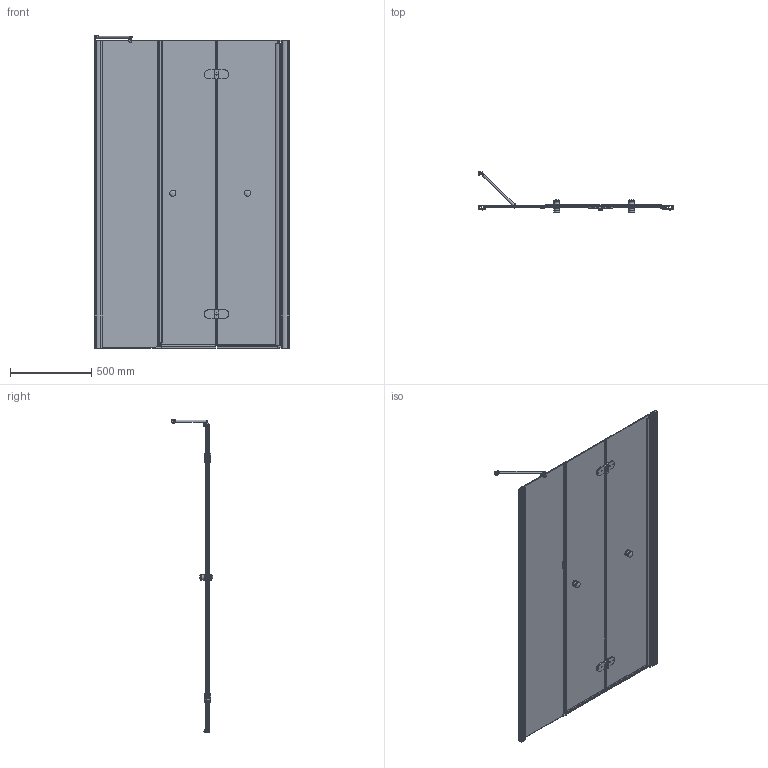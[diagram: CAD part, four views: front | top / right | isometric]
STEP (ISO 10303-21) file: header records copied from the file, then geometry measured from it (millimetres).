
FILE_DESCRIPTION(/* description */ ('Стенка задняя'),/* implementation_level */ '2;1');
FILE_NAME(/* name */ 'C:\5\stp\LUX DOOR GK-103C\LUX DOOR GK-103C правая модель\LUX DOOR GK-103C ПРАВАЯ-3D (для рендера).stp',/* time_stamp */ '2019-08-09T13:03:18+03:00',/* author */ ('ChechurovS'),/* organization */ (''),/* preprocessor_version */ 'ST-DEVELOPER v15.2',/* originating_system */ 'Autodesk Inventor 2014',/* authorisation */ '');
FILE_SCHEMA (('CONFIG_CONTROL_DESIGN'));
Length unit declared in the file: millimetre
Products named in the file (53): Стекло.03 (R-0); Стекло.03 (0); Стекло.02 (P) LX; CH25-0 R P1; CH25-0 P2; CH25-0 P3; CH25-0 P4; CH25-0 P5; CH25-0 P7; CH25-0 R; 07-001; 07-002; 07-003; 07-004; 07; M90-6.01; Магнит 90_1; М90-6; UP605-6; 622; RELAX P1; RELAX P2; RELAX P3; RELAX P4; RELAX P5; RELAX P6; REL25 P1; REL25 P2; REL25 P4; RELAX; 623; 624; UP623; UP602_2; UP602; STB-12-3-001; STB-3 P2; STB-3 P3; STB-3 P6; STB-3 P7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
Bounding box: 1200 x 254.45 x 1936.35 mm (x, y, z)
Volume: 14787940 mm3; surface area: 7649839.1 mm2
Topology: 102 solids, 102 shells, 2095 faces, 5481 edges, 3619 vertices
Faces by surface type: plane 1179, cylinder 756, cone 105, sphere 23, bspline 20, torus 12
Full cylindrical faces by diameter (mm): 3 x1, 4.134 x7, 4.917 x5, 5 x9, 6 x13, 6.647 x9, 7 x4, 7.8 x3, 8 x17, 8.04 x3, 8.2 x8, 8.5 x1, 9 x9, 11 x18, 12 x9, 12.2 x8, 12.4 x16, 12.5 x1, 13.9 x1, 14 x1, 15 x1, 16.6 x2, 16.9 x1, 17 x5, 19 x1, 20 x3, 26 x1, 30 x4, 38 x8
Entity records: 44093 total; most frequent: CARTESIAN_POINT 9281, DIRECTION 7312, ORIENTED_EDGE 6838, EDGE_CURVE 3419, AXIS2_PLACEMENT_3D 2610, VERTEX_POINT 2312, LINE 2092, VECTOR 2092
